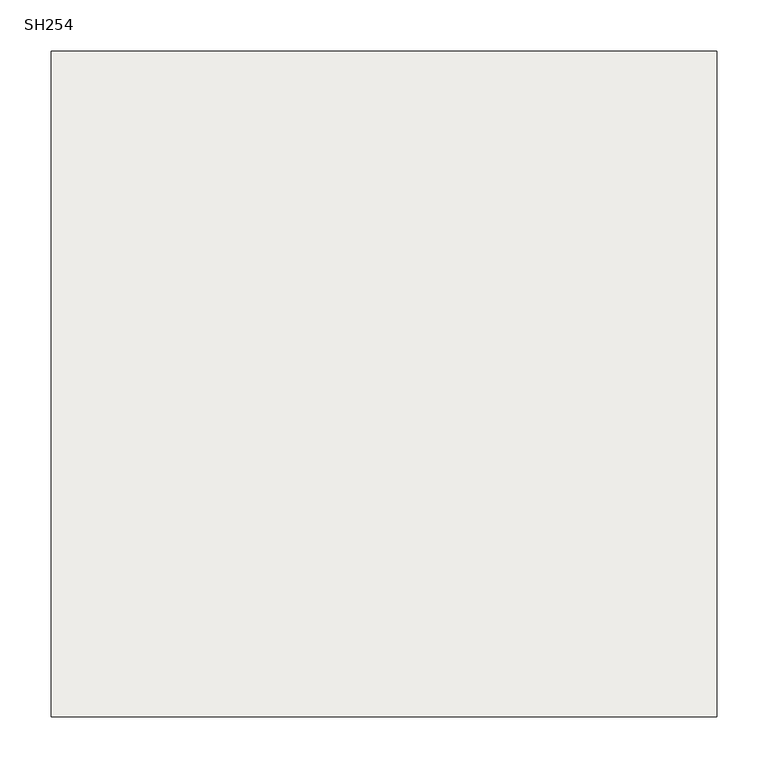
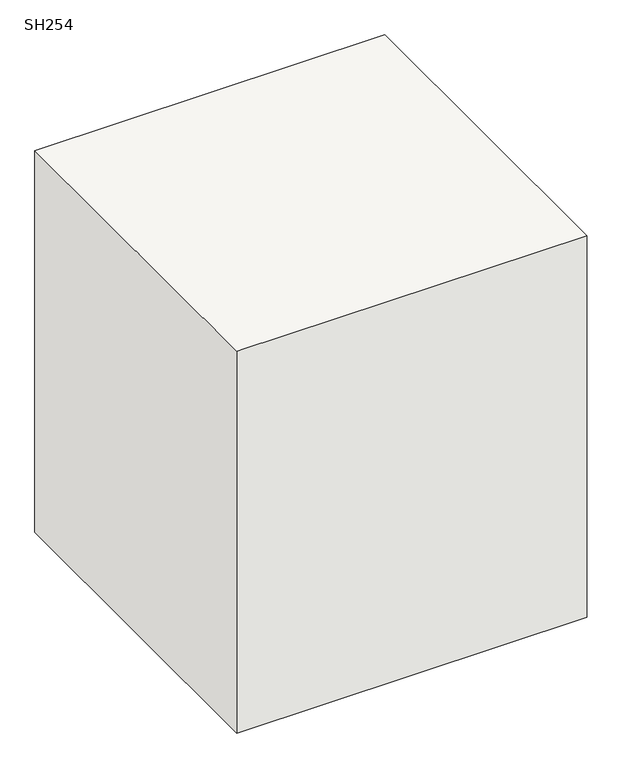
"""IFC4 building model written with IfcOpenShell, lengths in millimetres: slab geometry, 柱形_SH : SH254."""

from ifc_helpers import new_model, si_unit, frame, origin, place, context, project, spatial, polyline, outline, extrude, source, transform, mapped, element, save


def sh254_d4b0e25d(model_context):
    return source(origin(), model_context, "Body", "SweptSolid", [
        extrude(outline(polyline([(325.0, 325.0), (325.0, -325.0), (-325.0, -325.0), (-325.0, 325.0), (325.0, 325.0)])), frame((0.0, 0.0, -750.0), z_axis=(0.0, 0.0, 1.0), x_axis=(1.0, 0.0, 0.0)), (0.0, 0.0, 1.0), 750.0),
    ])


if __name__ == "__main__":
    model = new_model("IFC4")
    model_context = context("Model", 3, world=origin())
    ifc_project = project(units=[si_unit("LENGTHUNIT", "METRE", prefix="MILLI")], contexts=[model_context])
    site = spatial("IfcSite", under=ifc_project)
    building = spatial("IfcBuilding", under=site)
    placement = place(None, origin())
    sh254_shape = sh254_d4b0e25d(model_context)
    element("IfcSlab", 1, ObjectType="柱形_SH : SH254", at=placement, inside=building, context=model_context, shape_type="MappedRepresentation", body=[
        mapped(sh254_shape, transform((0.0, 0.0, 0.0), x_axis=(1.0, 0.0, 0.0), y_axis=(0.0, 1.0, 0.0), z_axis=(0.0, 0.0, 1.0))),
    ])
    save(model, "model.ifc")
